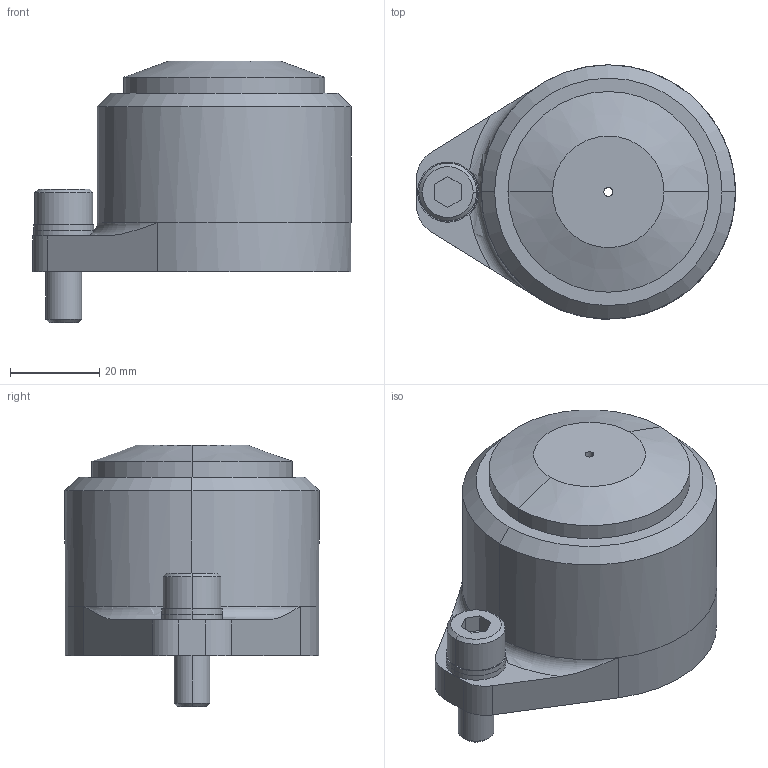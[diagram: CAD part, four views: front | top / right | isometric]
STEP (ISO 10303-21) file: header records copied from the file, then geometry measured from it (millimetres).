
FILE_DESCRIPTION(/* description */ (''),/* implementation_level */ '2;1');
FILE_NAME(/* name */ '3d_sprb20-g_05390_r00.stp',/* time_stamp */ '2011-01-10T14:10:08+09:00',/* author */ ('MISUMI'),/* organization */ (''),/* preprocessor_version */ 'ST-DEVELOPER v11',/* originating_system */ 'UGS - NX 5.0',/* authorisation */ '');
FILE_SCHEMA (('CONFIG_CONTROL_DESIGN'));
Length unit declared in the file: millimetre
Products named in the file (1): 3d_sprb20-g_05390_r00
Bounding box: 71.5 x 57 x 58.7 mm (x, y, z)
Volume: 98624 mm3; surface area: 38709.7 mm2
Topology: 6 solids, 6 shells, 74 faces, 164 edges, 106 vertices
Faces by surface type: cylinder 38, plane 26, cone 8, torus 2
Entity records: 2188 total; most frequent: DIRECTION 398, CARTESIAN_POINT 365, ORIENTED_EDGE 328, EDGE_CURVE 164, AXIS2_PLACEMENT_3D 163, VERTEX_POINT 106, EDGE_LOOP 90, CIRCLE 88
